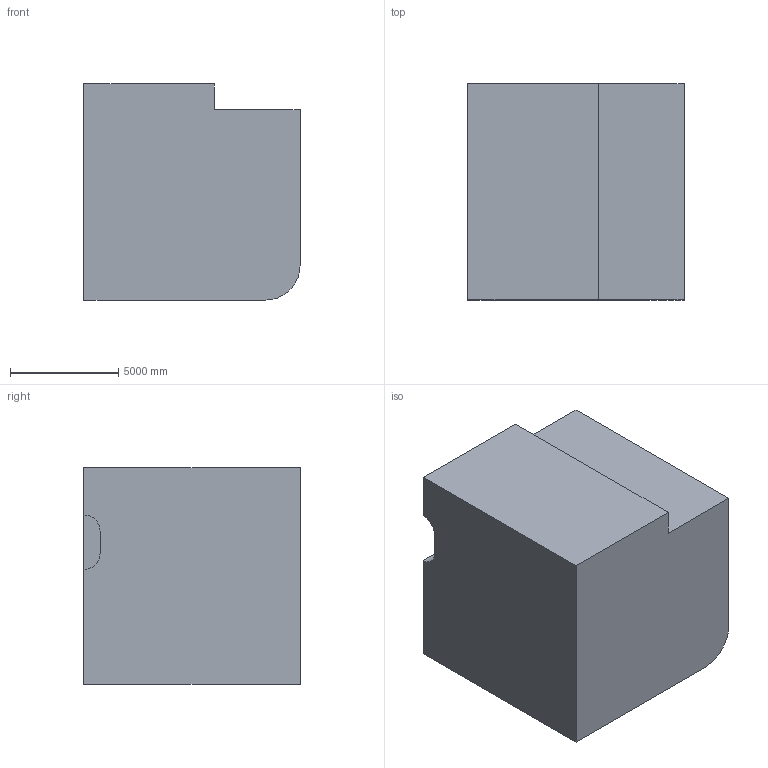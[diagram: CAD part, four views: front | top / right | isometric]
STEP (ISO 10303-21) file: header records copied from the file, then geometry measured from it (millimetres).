
FILE_DESCRIPTION (( 'STEP AP203' ), '1' );
FILE_NAME ('1270.STEP', '2022-08-18T13:29:28', ( 'user' ), ( '' ), 'SwSTEP 2.0', 'SolidWorks 2021', '' );
FILE_SCHEMA (( 'CONFIG_CONTROL_DESIGN' ));
Length unit declared in the file: centimetre
Products named in the file (1): 1270
Bounding box: 10000 x 10000 x 10000 mm (x, y, z)
Volume: 944194411953.3 mm3; surface area: 584444859.8 mm2
Topology: 1 solids, 1 shells, 13 faces, 33 edges, 22 vertices
Faces by surface type: plane 10, cylinder 3
Entity records: 470 total; most frequent: CARTESIAN_POINT 69, DIRECTION 67, ORIENTED_EDGE 66, EDGE_CURVE 33, VECTOR 27, LINE 27, VERTEX_POINT 22, AXIS2_PLACEMENT_3D 20
